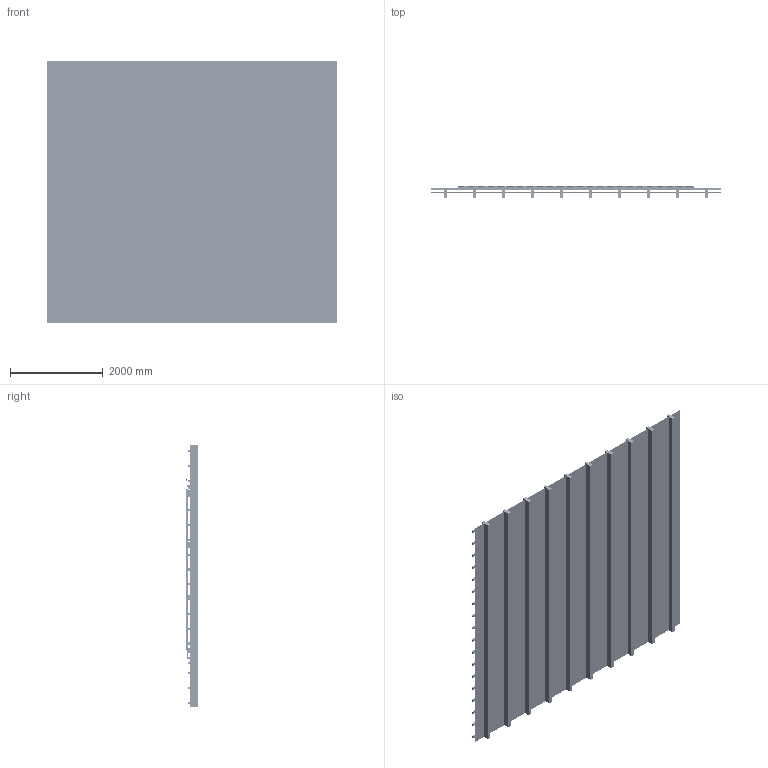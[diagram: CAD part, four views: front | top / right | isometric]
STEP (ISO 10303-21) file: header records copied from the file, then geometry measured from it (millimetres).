
FILE_DESCRIPTION(/* description */ ('Montagezeichnung Solrif N'),/* implementation_level */ '2;1');
FILE_NAME(/* name */ 'O:\S_Sonnenenergie\Entwicklung\40 Produkte\Bilder und CAD-Daten für Kunden\Solrif\01 CAD Datensätze\1607 x 1169 Aleo LEO Sol 335-345 W\H106968 Montagezeichnung 1607x1169.stp',/* time_stamp */ '2022-10-06T21:11:52+02:00',/* author */ ('rog2545'),/* organization */ (''),/* preprocessor_version */ 'ST-DEVELOPER v18.1',/* originating_system */ 'Autodesk Inventor 2022',/* authorisation */ '');
FILE_SCHEMA (('AUTOMOTIVE_DESIGN { 1 0 10303 214 3 1 1 }'));
Products named in the file (34): H106968; H106970; H106974; H106972; H106971; H106973; H106973_1; H106973_2; H106973_3; H106973_4; H106973_5; H106973_6; H107427; H107426; H107425; H106850; H100680; H100647; H100706; H101219-02; H019837; H106978; H106981; H100118-20; H100120-20; H107072; H019841; H108576-01; H108576-03; H108576; H108576-02; H108576_1; H121786; H001621
Assembly tree (139 placements, depth 3):
  H106968
    H106970
      H106974
      H106972  x10
      H106971  x10
      H106973_6  x12
      H106973
      H106973_1
      H106973_2
      H106973_3
      H106973_4
      H106973_5
    H107427
    H107072  x9
    H019841  x27
    H107426
    H107425  x4
    H019837  x21
    H106850
    H100680
    H100647
    H100706  x2
    H101219-02  x3
    H106978  x3
    H106981  x3
    H100118-20  x3
    H100120-20  x3
    H108576-01
      H108576_1
      H121786  x2
      H001621  x2
    H108576-03
      H108576
      H121786
      H001621
    H108576-02  x3
      H108576_1
      H121786
      H001621
Bounding box: 6272 x 261.03 x 5651 mm (x, y, z)
Volume: 1158825315.5 mm3; surface area: 183404916.2 mm2
Topology: 559 solids, 559 shells, 35015 faces, 90143 edges, 54607 vertices
Faces by surface type: cylinder 13812, plane 11871, bspline 4370, torus 3666, cone 708, sphere 588
Full cylindrical faces by diameter (mm): 3.242 x72, 3.3 x18, 4 x72, 4.5 x102, 4.8 x18, 5 x4, 5.459 x102, 5.5 x12, 5.557 x102, 6 x18, 12.5 x9
Entity records: 170574 total; most frequent: CARTESIAN_POINT 50237, ORIENTED_EDGE 24554, DIRECTION 23474, EDGE_CURVE 12277, AXIS2_PLACEMENT_3D 8137, VERTEX_POINT 7613, LINE 7200, VECTOR 7200
